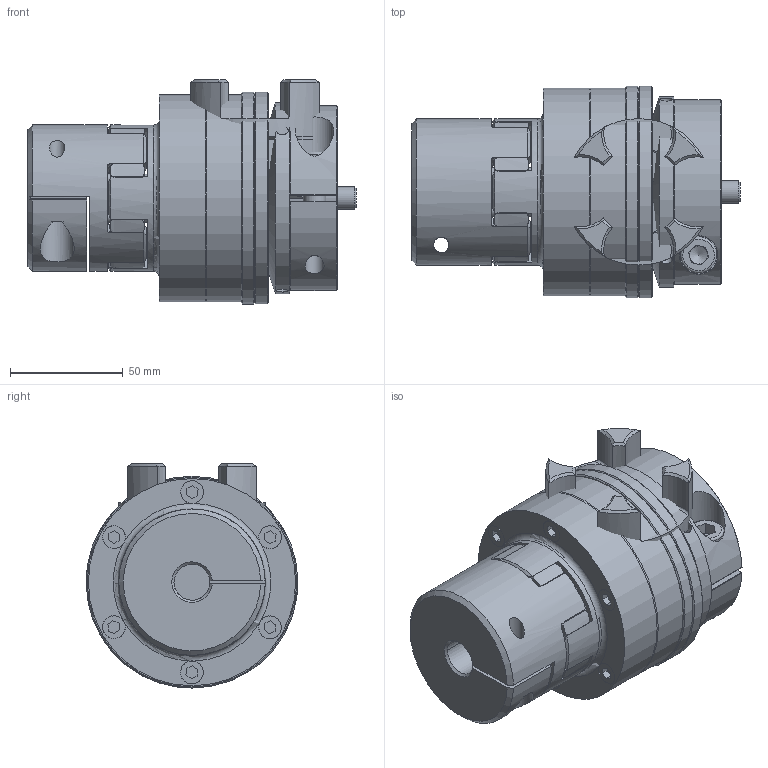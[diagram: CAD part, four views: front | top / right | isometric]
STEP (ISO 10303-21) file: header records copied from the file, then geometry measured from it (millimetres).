
FILE_DESCRIPTION( ( 'Unknown' ), '1' );
FILE_NAME( 'C:/Dokumente und Einstellungen/Sven/Desktop/hp kbk/E-KK/KBK EKK-28-142.stp', 'Unknown', ( 'Unknown' ), ( 'Unknown' ), 'XStep 1.0', 'Unknown', ' ' );
FILE_SCHEMA( ( 'automotive_design' ) );
Length unit declared in the file: millimetre
Products named in the file (18): Assem1; Assem2; Assem3; Assem4; ball_bearing_-_6008_0_01_0; ball_bearing_-_6008_0_02_0; ball_bearing_-_6008_0_03_0; Zylinderschraube DIN 912_1; Stellring 80_0; Druckring 80_0; Flansch 80_0; Elastomerflansch 28_0; Zahnkranz EK28_Standard_0; KBE 2 - 28_Nabe; a_40_0; KBK L-K-80 Grundkörper_0; Klemmnabe 80_0; Socket Head Cap Screw_DIN_DIN 912 M10 x 35 --- 35C
Bounding box: 145.65 x 94 x 99.5 mm (x, y, z)
Volume: 1157703.6 mm3; surface area: 352380 mm2
Topology: 37 solids, 37 shells, 885 faces, 2078 edges, 1339 vertices
Faces by surface type: plane 314, cylinder 310, cone 210, torus 51
Full cylindrical faces by diameter (mm): 2.5 x4, 3.242 x6, 4.917 x12, 5 x24, 5.2 x6, 6 x8, 6.2 x12, 6.8 x2, 8.376 x2, 9 x2, 10 x10, 10.2 x12, 10.5 x2, 16 x4, 17 x2, 19 x2, 30 x6, 37.5 x2, 40 x7, 42 x2, 49.2 x6, 59.1 x6, 61 x2, 62 x4, 65 x4, 68 x7, 70 x2, 85 x2, 87 x2, 90 x4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
Entity records: 11954 total; most frequent: CARTESIAN_POINT 2925, DIRECTION 1893, ORIENTED_EDGE 1522, AXIS2_PLACEMENT_3D 861, EDGE_CURVE 761, EDGE_LOOP 593, VERTEX_POINT 549, FACE_OUTER_BOUND 482
